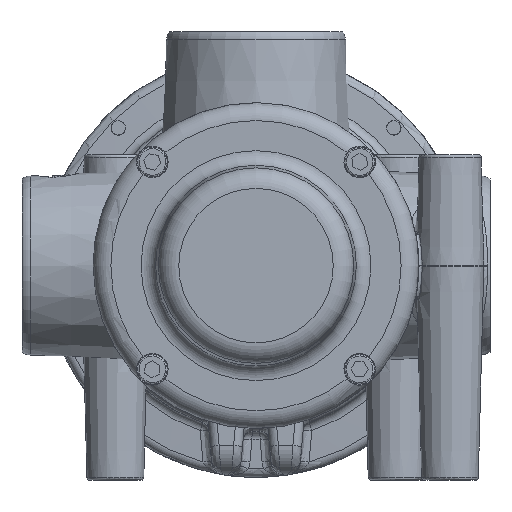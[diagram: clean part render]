
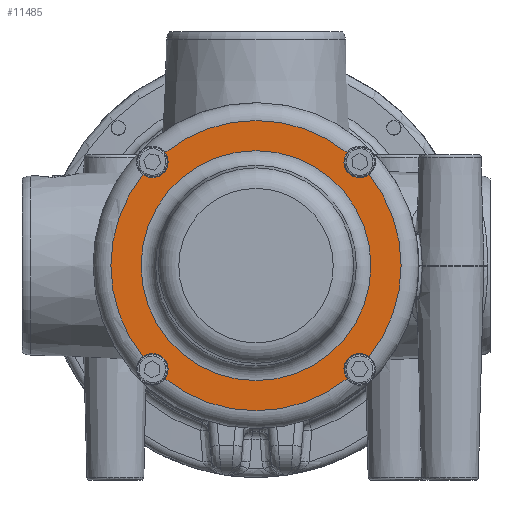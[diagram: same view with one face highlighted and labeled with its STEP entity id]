
A CAD part, front view. The second image highlights one B-rep face of the part: STEP entity #11485.
In plain terms, the highlighted planar face has unit normal (0, -1, 0).
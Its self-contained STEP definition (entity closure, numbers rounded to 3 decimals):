
#810=FACE_BOUND('',#3840,.T.);
#3062=FACE_OUTER_BOUND('',#3839,.T.);
#3839=EDGE_LOOP('',(#8060,#8061,#8062,#8063,#8064,#8065,#8066,#8067));
#3840=EDGE_LOOP('',(#8068));
#4794=CIRCLE('',#12297,5.308);
#4795=CIRCLE('',#12299,5.308);
#4796=CIRCLE('',#12301,5.308);
#4797=CIRCLE('',#12303,5.308);
#4799=CIRCLE('',#12306,49.);
#4800=CIRCLE('',#12307,49.);
#4801=CIRCLE('',#12308,49.);
#4802=CIRCLE('',#12309,49.);
#4806=CIRCLE('',#12316,38.818);
#5361=VERTEX_POINT('',#16528);
#5362=VERTEX_POINT('',#16529);
#5363=VERTEX_POINT('',#16560);
#5364=VERTEX_POINT('',#16561);
#5365=VERTEX_POINT('',#16594);
#5366=VERTEX_POINT('',#16595);
#5367=VERTEX_POINT('',#16628);
#5368=VERTEX_POINT('',#16629);
#5373=VERTEX_POINT('',#16675);
#6424=EDGE_CURVE('',#5361,#5362,#4794,.T.);
#6426=EDGE_CURVE('',#5363,#5364,#4795,.T.);
#6428=EDGE_CURVE('',#5365,#5366,#4796,.T.);
#6430=EDGE_CURVE('',#5367,#5368,#4797,.T.);
#6433=EDGE_CURVE('',#5361,#5368,#4799,.T.);
#6434=EDGE_CURVE('',#5367,#5366,#4800,.T.);
#6435=EDGE_CURVE('',#5365,#5364,#4801,.T.);
#6436=EDGE_CURVE('',#5363,#5362,#4802,.T.);
#6440=EDGE_CURVE('',#5373,#5373,#4806,.T.);
#8060=ORIENTED_EDGE('',*,*,#6424,.T.);
#8061=ORIENTED_EDGE('',*,*,#6436,.F.);
#8062=ORIENTED_EDGE('',*,*,#6426,.T.);
#8063=ORIENTED_EDGE('',*,*,#6435,.F.);
#8064=ORIENTED_EDGE('',*,*,#6428,.T.);
#8065=ORIENTED_EDGE('',*,*,#6434,.F.);
#8066=ORIENTED_EDGE('',*,*,#6430,.T.);
#8067=ORIENTED_EDGE('',*,*,#6433,.F.);
#8068=ORIENTED_EDGE('',*,*,#6440,.T.);
#11194=PLANE('',#12317);
#11485=ADVANCED_FACE('',(#3062,#810),#11194,.T.);
#12297=AXIS2_PLACEMENT_3D('',#16530,#13550,#13551);
#12299=AXIS2_PLACEMENT_3D('',#16562,#13554,#13555);
#12301=AXIS2_PLACEMENT_3D('',#16596,#13558,#13559);
#12303=AXIS2_PLACEMENT_3D('',#16630,#13562,#13563);
#12306=AXIS2_PLACEMENT_3D('',#16662,#13568,#13569);
#12307=AXIS2_PLACEMENT_3D('',#16663,#13570,#13571);
#12308=AXIS2_PLACEMENT_3D('',#16664,#13572,#13573);
#12309=AXIS2_PLACEMENT_3D('',#16665,#13574,#13575);
#12316=AXIS2_PLACEMENT_3D('',#16676,#13588,#13589);
#12317=AXIS2_PLACEMENT_3D('',#16677,#13590,#13591);
#13550=DIRECTION('center_axis',(0.,1.,0.));
#13551=DIRECTION('ref_axis',(-1.,0.,0.));
#13554=DIRECTION('center_axis',(0.,1.,0.));
#13555=DIRECTION('ref_axis',(-1.,0.,0.));
#13558=DIRECTION('center_axis',(0.,1.,0.));
#13559=DIRECTION('ref_axis',(-1.,0.,0.));
#13562=DIRECTION('center_axis',(0.,1.,0.));
#13563=DIRECTION('ref_axis',(-1.,0.,0.));
#13568=DIRECTION('center_axis',(0.,1.,0.));
#13569=DIRECTION('ref_axis',(-1.,0.,0.));
#13570=DIRECTION('center_axis',(0.,1.,0.));
#13571=DIRECTION('ref_axis',(-1.,0.,0.));
#13572=DIRECTION('center_axis',(0.,1.,0.));
#13573=DIRECTION('ref_axis',(-1.,0.,0.));
#13574=DIRECTION('center_axis',(0.,1.,0.));
#13575=DIRECTION('ref_axis',(-1.,0.,0.));
#13588=DIRECTION('center_axis',(0.,1.,0.));
#13589=DIRECTION('ref_axis',(-1.,0.,0.));
#13590=DIRECTION('center_axis',(0.,-1.,0.));
#13591=DIRECTION('ref_axis',(0.,0.,
-1.));
#16528=CARTESIAN_POINT('',(38.161,-7.,30.736));
#16529=CARTESIAN_POINT('',(30.736,-7.,38.161));
#16530=CARTESIAN_POINT('Origin',(35.,-7.,35.));
#16560=CARTESIAN_POINT('',(-30.736,-7.,38.161));
#16561=CARTESIAN_POINT('',(-38.161,-7.,30.736));
#16562=CARTESIAN_POINT('Origin',(-35.,-7.,35.));
#16594=CARTESIAN_POINT('',(-38.161,-7.,-30.736));
#16595=CARTESIAN_POINT('',(-30.736,-7.,-38.161));
#16596=CARTESIAN_POINT('Origin',(-35.,-7.,-35.));
#16628=CARTESIAN_POINT('',(30.736,-7.,-38.161));
#16629=CARTESIAN_POINT('',(38.161,-7.,-30.736));
#16630=CARTESIAN_POINT('Origin',(35.,-7.,-35.));
#16662=CARTESIAN_POINT('Origin',(0.,-7.,
0.));
#16663=CARTESIAN_POINT('Origin',(0.,-7.,
0.));
#16664=CARTESIAN_POINT('Origin',(0.,-7.,
0.));
#16665=CARTESIAN_POINT('Origin',(0.,-7.,
0.));
#16675=CARTESIAN_POINT('',(-38.818,-7.,0.));
#16676=CARTESIAN_POINT('Origin',(0.,-7.,
0.));
#16677=CARTESIAN_POINT('Origin',(-43.909,-7.,0.));
